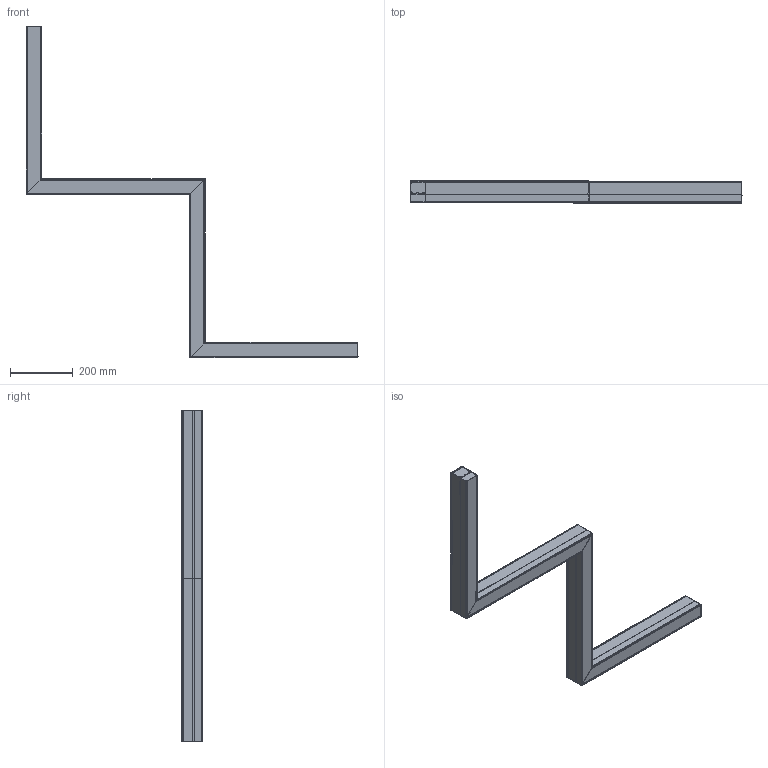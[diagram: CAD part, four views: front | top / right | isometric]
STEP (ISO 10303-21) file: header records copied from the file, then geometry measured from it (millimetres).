
FILE_DESCRIPTION(('STEP AP203'), '1');
FILE_NAME('Ìèêêî Çèãçàã 40Âò', '', ('UNSPECIFIED'), ('UNSPECIFIED'), 'ASCON STEP Converter 1.6', 'ASCON Math Kernel', '');
FILE_SCHEMA(('CONFIG_CONTROL_DESIGN'));
Length unit declared in the file: millimetre
Products named in the file (7): -01
Assembly tree (8 placements, depth 3):
  (unnamed)
    (unnamed)
      (unnamed)  x2
    (unnamed)
    -01
    -01
      (unnamed)  x2
Bounding box: 1058.15 x 70 x 1058.15 mm (x, y, z)
Volume: 902346.8 mm3; surface area: 1389509.8 mm2
Topology: 15 solids, 15 shells, 930 faces, 2671 edges, 1784 vertices
Faces by surface type: cylinder 480, plane 412, bspline 16, cone 12, torus 10
Full cylindrical faces by diameter (mm): 2.9 x4, 6.3 x4, 8 x1, 10 x2, 14 x2
Entity records: 29707 total; most frequent: CARTESIAN_POINT 7583, ORIENTED_EDGE 5052, DIRECTION 3902, EDGE_CURVE 2526, VERTEX_POINT 1694, LINE 1532, VECTOR 1532, AXIS2_PLACEMENT_3D 1185
